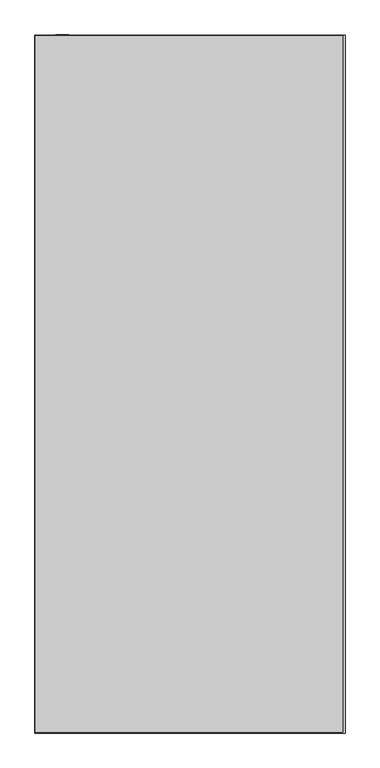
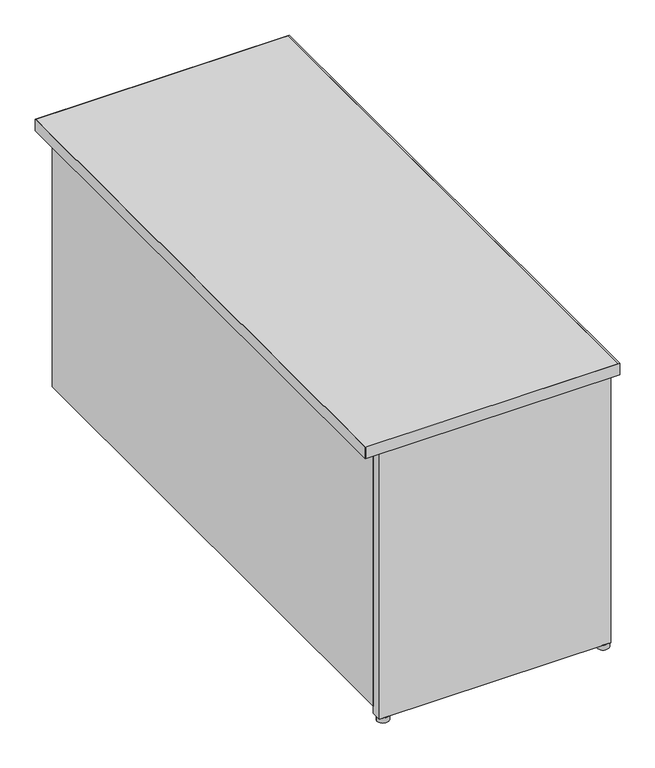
"""IFC4 building model written with IfcOpenShell, lengths in millimetres: furniture geometry, Steelcase - Kick Freestanding - Desk - Return - Full Height Modesty Panel : 24D x 54W - Left."""

from ifc_helpers import new_model, si_unit, point, frame, frame_2d, origin, origin_with_axes, place, context, project, spatial, polyline, circle_curve, trimmed, segment, composite_curve, outline, extrude, source, transform, mapped, element, save


def furniture_cdd3df48(model_context):
    return source(origin(), model_context, "Body", "SweptSolid", [
        extrude(outline(composite_curve([segment(trimmed(circle_curve(frame_2d((2220.2474425, -1893.0145152)), 13.97), [point((2206.2774425, -1893.0145152))], [point((2234.2174425, -1893.0145152))], False, "CARTESIAN"), True, "CONTINUOUS"), segment(trimmed(circle_curve(frame_2d((2220.2474425, -1893.0145152)), 13.97), [point((2234.2174425, -1893.0145152))], [point((2206.2774425, -1893.0145152))], False, "CARTESIAN"), True, "CONTINUOUS")], self_intersect=False)), origin_with_axes(), (0.0, 0.0, 1.0), 12.7),
        extrude(outline(composite_curve([segment(trimmed(circle_curve(frame_2d((2748.0594425, -1893.0145152)), 13.97), [point((2734.0894425, -1893.0145152))], [point((2762.0294425, -1893.0145152))], False, "CARTESIAN"), True, "CONTINUOUS"), segment(trimmed(circle_curve(frame_2d((2748.0594425, -1893.0145152)), 13.97), [point((2762.0294425, -1893.0145152))], [point((2734.0894425, -1893.0145152))], False, "CARTESIAN"), True, "CONTINUOUS")], self_intersect=False)), origin_with_axes(), (0.0, 0.0, 1.0), 12.7),
        extrude(outline(polyline([(2205.0074425, -1880.4669152), (2328.2736437, -1880.4669152), (2328.2736437, -1902.8951136), (2427.9940467, -1902.8951136), (2427.9940467, -1880.4669041), (2536.7314502, -1880.4669041), (2536.7314502, -1902.8951136), (2636.4518532, -1902.8951136), (2636.4518532, -1880.4669041), (2759.4894376, -1880.4669041), (2759.4894376, -1904.9525098), (2205.0074425, -1904.9525098), (2205.0074425, -1880.4669152)])), frame((0.0, 0.0, 12.7), z_axis=(0.0, 0.0, 1.0), x_axis=(1.0, 0.0, 0.0)), (0.0, 0.0, 1.0), 682.244),
        extrude(outline(polyline([(2230.4074426, -546.0525152), (2230.4074426, -1880.4669152), (2205.0074425, -1880.4669152), (2205.0074425, -546.0525152), (2230.4074426, -546.0525152)])), frame((0.0, 0.0, 31.242), z_axis=(0.0, 0.0, 1.0), x_axis=(1.0, 0.0, 0.0)), (0.0, 0.0, 1.0), 663.702),
        extrude(outline(polyline([(2769.2176592, -548.0845152), (2769.2176592, -1917.1445152), (2164.8500425, -1917.1445152), (2164.8500425, -548.0845152), (2769.2176592, -548.0845152)])), frame((0.0, 0.0, 694.944), z_axis=(0.0, 0.0, 1.0), x_axis=(1.0, 0.0, 0.0)), (0.0, 0.0, 1.0), 28.956),
        extrude(outline(polyline([(2773.4594425, -546.8145152), (2773.4594425, -1918.4145152), (2163.8594425, -1918.4145152), (2163.8594425, -546.8145152), (2773.4594425, -546.8145152)]), holes=[polyline([(2769.2176592, -548.0845152), (2164.8500425, -548.0845152), (2164.8500425, -1917.1445152), (2769.2176592, -1917.1445152), (2769.2176592, -548.0845152)])]), frame((0.0, 0.0, 694.944), z_axis=(0.0, 0.0, 1.0), x_axis=(1.0, 0.0, 0.0)), (0.0, 0.0, 1.0), 28.956),
    ])


if __name__ == "__main__":
    model = new_model("IFC4")
    model_context = context("Model", 3, world=origin())
    ifc_project = project(units=[si_unit("LENGTHUNIT", "METRE", prefix="MILLI")], contexts=[model_context])
    site = spatial("IfcSite", under=ifc_project)
    building = spatial("IfcBuilding", under=site)
    placement = place(None, origin())
    furniture_shape = furniture_cdd3df48(model_context)
    element("IfcFurniture", 1, ObjectType="Steelcase - Kick Freestanding - Desk - Return - Full Height Modesty Panel : 24D x 54W - Left", at=placement, inside=building, context=model_context, shape_type="MappedRepresentation", body=[
        mapped(furniture_shape, transform((0.0, 0.0, 0.0), x_axis=(1.0, 0.0, 0.0), y_axis=(0.0, 1.0, 0.0), z_axis=(0.0, 0.0, 1.0))),
    ])
    save(model, "model.ifc")
